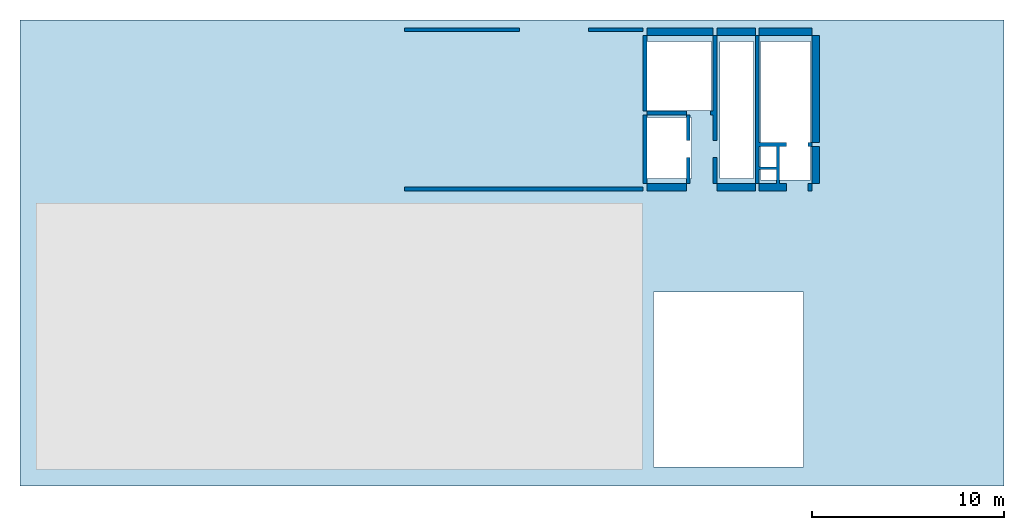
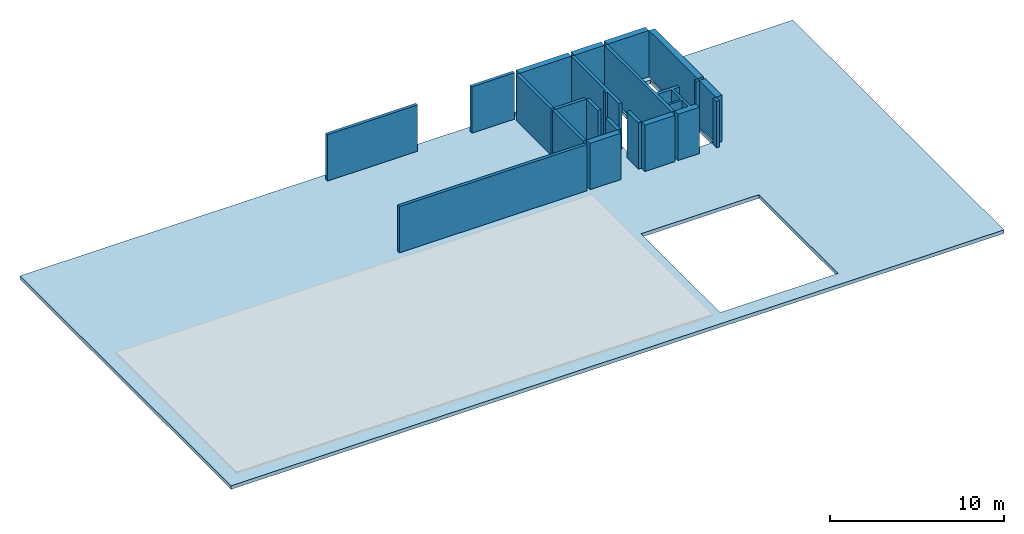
# One storey, part 1 of 2: 20 walls, 1 slab.
"""IFC4 building model written with IfcOpenShell, lengths in millimetres."""

from ifc_helpers import new_model, si_unit, frame, origin, place, context, project, spatial, triangles, element, save


model = new_model("IFC4")

# Units and contexts
model_context = context("Model", 3, precision=0.001, world=origin())
ifc_project = project(units=[si_unit("LENGTHUNIT", "METRE", prefix="MILLI"), si_unit("AREAUNIT", "SQUARE_METRE"), si_unit("VOLUMEUNIT", "CUBIC_METRE")], contexts=[model_context])

# Site, building, storey
site_placement = place(None, origin())
site = spatial("IfcSite", under=ifc_project, at=site_placement, Name="Site", CompositionType="ELEMENT")
building_placement = place(site_placement, origin())
building = spatial("IfcBuilding", under=site, at=building_placement, Name="INNOCEAN", CompositionType="ELEMENT")
storey_placement = place(building_placement, frame((0.0, 0.0, 84800.0)))
storey = spatial("IfcBuildingStorey", under=building, at=storey_placement, Name="RF", CompositionType="ELEMENT", Elevation=84800.0)

# Slab
slab_placement = place(storey_placement, origin())
element("IfcSlab", 1, at=slab_placement, inside=storey, Name="RF_Slab_RF_001", context=model_context, shape_type="Tessellation", body=[
    triangles([(-846.215139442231, 25825.974025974, 0.0), (50420.3187250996, 25825.974025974, -250.0), (-846.215139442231, 25825.974025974, -250.0), (50420.3187250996, 25825.974025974, 0.0), (-846.215139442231, 1552.38095238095, 0.0), (-846.215139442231, 1552.38095238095, -250.0), (50420.3187250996, 1552.38095238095, 0.0), (50420.3187250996, 1552.38095238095, -250.0), (39983.6653386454, 11642.8571428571, 0.0), (32156.1752988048, 11642.8571428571, 0.0), (32156.1752988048, 11642.8571428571, -250.0), (39983.6653386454, 11642.8571428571, -250.0), (39983.6653386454, 2540.25974025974, 0.0), (39983.6653386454, 2540.25974025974, -250.0), (32156.1752988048, 2540.25974025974, 0.0), (32156.1752988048, 2540.25974025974, -250.0), (40336.2549800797, 24696.9696969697, -250.0), (37727.0916334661, 24696.9696969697, 0.0), (37727.0916334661, 24696.9696969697, -250.0), (40336.2549800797, 24696.9696969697, 0.0), (37727.0916334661, 17499.5670995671, 0.0), (37727.0916334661, 17499.5670995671, -250.0), (40336.2549800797, 17499.5670995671, 0.0), (40336.2549800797, 17499.5670995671, -250.0), (37374.5019920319, 24696.9696969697, 0.0), (35611.5537848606, 24696.9696969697, 0.0), (35611.5537848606, 24696.9696969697, -250.0), (37374.5019920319, 24696.9696969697, -250.0), (35611.5537848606, 17570.1298701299, 0.0), (35611.5537848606, 17570.1298701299, -250.0), (37374.5019920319, 17570.1298701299, 0.0), (37374.5019920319, 17570.1298701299, -250.0), (34130.6772908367, 20745.4545454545, -250.0), (31733.0677290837, 20745.4545454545, 0.0), (31733.0677290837, 20745.4545454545, -250.0), (34130.6772908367, 20745.4545454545, 0.0), (31733.0677290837, 17570.1298701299, 0.0), (31733.0677290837, 17570.1298701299, -250.0), (34130.6772908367, 17570.1298701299, 0.0), (34130.6772908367, 17570.1298701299, -250.0), (35188.4462151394, 24696.9696969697, 0.0), (31733.0677290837, 24696.9696969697, 0.0), (31733.0677290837, 24696.9696969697, -250.0), (35188.4462151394, 24696.9696969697, -250.0), (31733.0677290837, 21098.2683982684, 0.0), (31733.0677290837, 21098.2683982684, -250.0), (35188.4462151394, 21098.2683982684, 0.0), (35188.4462151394, 21098.2683982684, -250.0)], [[1, 2, 3], [1, 4, 2], [5, 1, 6], [6, 1, 3], [4, 7, 2], [2, 7, 8], [7, 6, 8], [7, 5, 6], [9, 10, 11], [9, 11, 12], [13, 9, 12], [13, 12, 14], [15, 13, 14], [15, 14, 16], [10, 15, 16], [10, 16, 11], [17, 18, 19], [20, 18, 17], [18, 21, 22], [18, 22, 19], [23, 20, 17], [23, 17, 24], [22, 23, 24], [21, 23, 22], [25, 26, 27], [25, 27, 28], [26, 29, 30], [26, 30, 27], [31, 25, 28], [31, 28, 32], [29, 31, 32], [29, 32, 30], [33, 34, 35], [36, 34, 33], [34, 37, 38], [34, 38, 35], [39, 36, 33], [39, 33, 40], [38, 39, 40], [37, 39, 38], [41, 42, 43], [41, 43, 44], [42, 45, 46], [42, 46, 43], [47, 41, 44], [47, 44, 48], [45, 47, 48], [45, 48, 46], [13, 15, 7], [7, 9, 13], [7, 4, 9], [4, 23, 9], [23, 21, 9], [21, 31, 9], [9, 29, 10], [31, 29, 9], [29, 39, 10], [4, 20, 23], [39, 37, 10], [29, 36, 39], [47, 36, 29], [36, 45, 34], [26, 41, 47], [10, 5, 15], [37, 5, 10], [34, 1, 37], [42, 1, 45], [45, 1, 34], [37, 1, 5], [4, 1, 20], [20, 1, 18], [18, 1, 25], [25, 1, 26], [26, 1, 41], [41, 1, 42], [5, 7, 15], [29, 26, 47], [25, 31, 18], [18, 31, 21], [47, 45, 36], [16, 14, 8], [12, 8, 14], [2, 8, 12], [24, 2, 12], [22, 24, 12], [32, 22, 12], [30, 12, 11], [30, 32, 12], [40, 30, 11], [17, 2, 24], [38, 40, 11], [33, 30, 40], [33, 48, 30], [46, 33, 35], [44, 27, 48], [6, 11, 16], [6, 38, 11], [3, 35, 38], [3, 43, 46], [3, 46, 35], [3, 38, 6], [3, 2, 17], [3, 17, 19], [3, 19, 28], [3, 28, 27], [3, 27, 44], [3, 44, 43], [8, 6, 16], [27, 30, 48], [32, 28, 19], [32, 19, 22], [46, 48, 33]], closed=True),
])

# Walls
wall_1_placement = place(storey_placement, origin())
element("IfcWall", 2, at=wall_1_placement, inside=storey, Name="RF_Walls_RF_001", context=model_context, shape_type="Tessellation", body=[
    triangles([(19183.7, 17125.6, 0.0), (19183.7, 16922.4, 0.0), (19183.7, 16922.4, 3250.0), (19183.7, 17125.6, 3250.0), (31623.1, 17125.6, 0.0), (31623.1, 17125.6, 3250.0), (31623.1, 16922.4, 0.0), (31623.1, 16922.4, 3250.0)], [[1, 2, 3], [1, 3, 4], [5, 1, 4], [5, 4, 6], [7, 5, 6], [7, 6, 8], [2, 7, 8], [2, 8, 3], [1, 5, 7], [1, 7, 2], [6, 4, 8], [8, 4, 3]], closed=True),
])
wall_2_placement = place(storey_placement, origin())
element("IfcWall", 3, at=wall_2_placement, inside=storey, Name="RF_Walls_RF_002", context=model_context, shape_type="Tessellation", body=[
    triangles([(31826.2, 17316.1, 0.0), (31826.2, 16922.4, 0.0), (31826.2, 16922.4, 3250.0), (31826.2, 17316.1, 3250.0), (33869.8, 17316.1, 0.0), (33869.8, 17316.1, 3250.0), (33869.8, 16922.4, 0.0), (33869.8, 16922.4, 3250.0)], [[1, 2, 3], [1, 3, 4], [5, 1, 4], [5, 4, 6], [7, 5, 6], [7, 6, 8], [2, 7, 8], [2, 8, 3], [1, 5, 7], [1, 7, 2], [6, 4, 8], [8, 4, 3]], closed=True),
])
wall_3_placement = place(storey_placement, origin())
element("IfcWall", 4, at=wall_3_placement, inside=storey, Name="RF_Walls_RF_003", context=model_context, shape_type="Tessellation", body=[
    triangles([(33869.8, 18649.7, 0.0), (33869.8, 17316.1, 0.0), (33869.8, 17316.1, 3250.0), (33869.8, 18649.7, 3250.0), (34072.9, 18649.7, 0.0), (34072.9, 18649.7, 3250.0), (34072.9, 17316.1, 0.0), (34072.9, 17316.1, 3250.0)], [[1, 2, 3], [1, 3, 4], [5, 1, 4], [5, 4, 6], [7, 5, 6], [7, 6, 8], [2, 7, 8], [2, 8, 3], [1, 5, 7], [1, 7, 2], [6, 4, 8], [8, 4, 3]], closed=True),
])
wall_4_placement = place(storey_placement, origin())
element("IfcWall", 5, at=wall_4_placement, inside=storey, Name="RF_Walls_RF_004", context=model_context, shape_type="Tessellation", body=[
    triangles([(35266.0, 18649.7, 0.0), (35266.0, 17316.1, 0.0), (35266.0, 17316.1, 3250.0), (35266.0, 18649.7, 3250.0), (35469.1, 18649.7, 0.0), (35469.1, 18649.7, 3250.0), (35469.1, 17316.1, 0.0), (35469.1, 17316.1, 3250.0)], [[1, 2, 3], [1, 3, 4], [5, 1, 4], [5, 4, 6], [7, 5, 6], [7, 6, 8], [2, 7, 8], [2, 8, 3], [1, 5, 7], [1, 7, 2], [6, 4, 8], [8, 4, 3]], closed=True),
])
wall_5_placement = place(storey_placement, origin())
element("IfcWall", 6, at=wall_5_placement, inside=storey, Name="RF_Walls_RF_005", context=model_context, shape_type="Tessellation", body=[
    triangles([(31623.1, 20872.5, 0.0), (31623.1, 17316.1, 0.0), (31623.1, 17316.1, 3250.0), (31623.1, 20872.5, 3250.0), (31826.2, 20872.5, 0.0), (31826.2, 20872.5, 3250.0), (31826.2, 17316.1, 0.0), (31826.2, 17316.1, 3250.0)], [[1, 2, 3], [1, 3, 4], [5, 1, 4], [5, 4, 6], [7, 5, 6], [7, 6, 8], [2, 7, 8], [2, 8, 3], [1, 5, 7], [1, 7, 2], [6, 4, 8], [8, 4, 3]], closed=True),
])
wall_6_placement = place(storey_placement, origin())
element("IfcWall", 7, at=wall_6_placement, inside=storey, Name="RF_Walls_RF_006", context=model_context, shape_type="Tessellation", body=[
    triangles([(33869.8, 20872.5, 0.0), (33869.8, 19551.5, 0.0), (33869.8, 19551.5, 3250.0), (33869.8, 20872.5, 3250.0), (34072.9, 20872.5, 0.0), (34072.9, 20872.5, 3250.0), (34072.9, 19551.5, 0.0), (34072.9, 19551.5, 3250.0)], [[1, 2, 3], [1, 3, 4], [5, 1, 4], [5, 4, 6], [7, 5, 6], [7, 6, 8], [2, 7, 8], [2, 8, 3], [1, 5, 7], [1, 7, 2], [6, 4, 8], [8, 4, 3]], closed=True),
])
wall_7_placement = place(storey_placement, origin())
element("IfcWall", 8, at=wall_7_placement, inside=storey, Name="RF_Walls_RF_007", context=model_context, shape_type="Tessellation", body=[
    triangles([(35266.0, 20872.5, 0.0), (35266.0, 19551.5, 0.0), (35266.0, 19551.5, 3250.0), (35266.0, 20872.5, 3250.0), (35126.4, 20872.5, 3250.0), (35126.4, 20872.5, 0.0), (35126.4, 21075.7, 0.0), (35126.4, 21075.7, 3250.0), (35266.0, 21075.7, 3250.0), (35266.0, 21075.7, 0.0), (35266.0, 25025.8, 0.0), (35266.0, 25025.8, 3250.0), (35469.1, 25025.8, 0.0), (35469.1, 25025.8, 3250.0), (35469.1, 21075.7, 0.0), (35469.1, 21075.7, 3250.0), (35469.1, 20872.5, 0.0), (35469.1, 20872.5, 3250.0), (35469.1, 19551.5, 0.0), (35469.1, 19551.5, 3250.0)], [[1, 2, 3], [1, 3, 4], [1, 4, 5], [6, 1, 5], [7, 6, 5], [7, 5, 8], [7, 8, 9], [10, 7, 9], [11, 10, 9], [11, 9, 12], [13, 11, 12], [13, 12, 14], [15, 13, 14], [15, 14, 16], [17, 15, 16], [17, 16, 18], [19, 17, 18], [19, 18, 20], [2, 19, 20], [2, 20, 3], [1, 17, 19], [1, 19, 2], [15, 17, 1], [10, 15, 1], [7, 1, 6], [7, 10, 1], [11, 13, 15], [11, 15, 10], [18, 4, 20], [20, 4, 3], [18, 16, 4], [16, 9, 4], [4, 8, 5], [9, 8, 4], [14, 12, 16], [16, 12, 9]], closed=True),
])
wall_8_placement = place(storey_placement, origin())
element("IfcWall", 9, at=wall_8_placement, inside=storey, Name="RF_Walls_RF_008", context=model_context, shape_type="Tessellation", body=[
    triangles([(31826.2, 21075.7, 0.0), (31826.2, 20872.5, 0.0), (31826.2, 20872.5, 3250.0), (31826.2, 21075.7, 3250.0), (33869.8, 21075.7, 0.0), (33869.8, 21075.7, 3250.0), (33869.8, 20872.5, 0.0), (33869.8, 20872.5, 3250.0)], [[1, 2, 3], [1, 3, 4], [5, 1, 4], [5, 4, 6], [7, 5, 6], [7, 6, 8], [2, 7, 8], [2, 8, 3], [1, 5, 7], [1, 7, 2], [6, 4, 8], [8, 4, 3]], closed=True),
])
wall_9_placement = place(storey_placement, origin())
element("IfcWall", 10, at=wall_9_placement, inside=storey, Name="RF_Walls_RF_009", context=model_context, shape_type="Tessellation", body=[
    triangles([(31623.1, 25025.8, 0.0), (31623.1, 21075.7, 0.0), (31623.1, 21075.7, 3250.0), (31623.1, 25025.8, 3250.0), (31826.2, 25025.8, 0.0), (31826.2, 25025.8, 3250.0), (31826.2, 21075.7, 0.0), (31826.2, 21075.7, 3250.0)], [[1, 2, 3], [1, 3, 4], [5, 1, 4], [5, 4, 6], [7, 5, 6], [7, 6, 8], [2, 7, 8], [2, 8, 3], [5, 7, 2], [1, 5, 2], [8, 6, 3], [6, 4, 3]], closed=True),
])
wall_10_placement = place(storey_placement, origin())
element("IfcWall", 11, at=wall_10_placement, inside=storey, Name="RF_Walls_RF_010", context=model_context, shape_type="Tessellation", body=[
    triangles([(31826.2, 25025.8, 0.0), (31826.2, 25025.8, 3250.0), (31826.2, 25419.5, 3250.0), (31826.2, 25419.5, 0.0), (35266.0, 25419.5, 0.0), (35266.0, 25419.5, 3250.0), (35266.0, 25025.8, 3250.0), (35266.0, 25025.8, 0.0)], [[1, 2, 3], [4, 1, 3], [5, 4, 3], [5, 3, 6], [5, 6, 7], [8, 5, 7], [1, 8, 7], [1, 7, 2], [4, 5, 8], [4, 8, 1], [6, 3, 7], [7, 3, 2]], closed=True),
])
wall_11_placement = place(storey_placement, origin())
element("IfcWall", 12, at=wall_11_placement, inside=storey, Name="RF_Walls_RF_011", context=model_context, shape_type="Tessellation", body=[
    triangles([(35469.1, 25025.8, 0.0), (35469.1, 25025.8, 3250.0), (35469.1, 25419.5, 3250.0), (35469.1, 25419.5, 0.0), (37474.6, 25419.5, 0.0), (37474.6, 25419.5, 3250.0), (37474.6, 25025.8, 3250.0), (37474.6, 25025.8, 0.0)], [[1, 2, 3], [4, 1, 3], [5, 4, 3], [5, 3, 6], [5, 6, 7], [8, 5, 7], [1, 8, 7], [1, 7, 2], [4, 5, 8], [4, 8, 1], [6, 3, 7], [7, 3, 2]], closed=True),
])
wall_12_placement = place(storey_placement, origin())
element("IfcWall", 13, at=wall_12_placement, inside=storey, Name="RF_Walls_RF_012", context=model_context, shape_type="Tessellation", body=[
    triangles([(19183.7, 25419.5, 0.0), (19183.7, 25216.3, 0.0), (19183.7, 25216.3, 3250.0), (19183.7, 25419.5, 3250.0), (19185.0, 25419.5, 3250.0), (19185.0, 25419.5, 0.0), (19185.0, 25420.0, 0.0), (19185.0, 25420.0, 3250.0), (25175.0, 25420.0, 0.0), (25175.0, 25420.0, 3250.0), (25175.0, 25215.0, 0.0), (25175.0, 25215.0, 3250.0), (19185.0, 25215.0, 0.0), (19185.0, 25215.0, 3250.0), (19185.0, 25216.3, 3250.0), (19185.0, 25216.3, 0.0)], [[1, 2, 3], [1, 3, 4], [1, 4, 5], [6, 1, 5], [7, 6, 5], [7, 5, 8], [9, 7, 8], [9, 8, 10], [11, 9, 10], [11, 10, 12], [13, 11, 12], [13, 12, 14], [13, 14, 15], [16, 13, 15], [16, 15, 3], [2, 16, 3], [16, 9, 11], [16, 11, 13], [6, 9, 16], [7, 9, 6], [1, 16, 2], [1, 6, 16], [10, 15, 12], [12, 15, 14], [10, 5, 15], [10, 8, 5], [15, 4, 3], [5, 4, 15]], closed=True),
])
wall_13_placement = place(storey_placement, origin())
element("IfcWall", 14, at=wall_13_placement, inside=storey, Name="RF_Walls_RF_013", context=model_context, shape_type="Tessellation", body=[
    triangles([(28779.8, 25419.5, 0.0), (28779.8, 25216.3, 0.0), (28779.8, 25216.3, 3250.0), (28779.8, 25419.5, 3250.0), (31623.1, 25419.5, 0.0), (31623.1, 25419.5, 3250.0), (31623.1, 25216.3, 0.0), (31623.1, 25216.3, 3250.0)], [[1, 2, 3], [1, 3, 4], [5, 1, 4], [5, 4, 6], [7, 5, 6], [7, 6, 8], [2, 7, 8], [2, 8, 3], [2, 5, 7], [1, 5, 2], [6, 3, 8], [6, 4, 3]], closed=True),
])
wall_14_placement = place(storey_placement, origin())
element("IfcWall", 15, at=wall_14_placement, inside=storey, Name="RF_Walls_RF_014", context=model_context, shape_type="Tessellation", body=[
    triangles([(35469.1, 17316.1, 0.0), (35469.1, 16922.4, 0.0), (35469.1, 16922.4, 3250.0), (35469.1, 17316.1, 3250.0), (37474.6, 17316.1, 0.0), (37474.6, 17316.1, 3250.0), (37474.6, 16922.4, 0.0), (37474.6, 16922.4, 3250.0)], [[1, 2, 3], [1, 3, 4], [5, 1, 4], [5, 4, 6], [7, 5, 6], [7, 6, 8], [2, 7, 8], [2, 8, 3], [1, 5, 7], [1, 7, 2], [6, 4, 8], [8, 4, 3]], closed=True),
])
wall_15_placement = place(storey_placement, origin())
element("IfcWall", 16, at=wall_15_placement, inside=storey, Name="RF_Walls_RF_015", context=model_context, shape_type="Tessellation", body=[
    triangles([(37474.6, 17316.1, 0.0), (37665.0, 17316.1, 0.0), (37665.0, 17316.1, 3250.0), (37474.6, 17316.1, 3250.0), (37665.0, 16922.4, 0.0), (37665.0, 16922.4, 3250.0), (39099.4, 16922.4, 0.0), (39099.4, 16922.4, 3250.0), (39099.4, 17316.1, 0.0), (39099.4, 17316.1, 3250.0), (38720.0, 17316.1, 0.0), (38720.0, 17316.1, 3250.0), (38720.0, 19245.0, 0.0), (38720.0, 19245.0, 3250.0), (39100.0, 19245.0, 0.0), (39100.0, 19245.0, 3250.0), (39100.0, 19450.0, 0.0), (39100.0, 19450.0, 3250.0), (37665.0, 19450.0, 0.0), (37665.0, 19450.0, 3250.0), (37665.0, 25025.8, 0.0), (37665.0, 25025.8, 3250.0), (37474.6, 25025.8, 0.0), (37474.6, 25025.8, 3250.0), (37474.6, 19449.9, 0.0), (37474.6, 19449.9, 3250.0), (37665.0, 18025.0, 0.0), (37665.0, 18025.0, 3250.0), (38565.0, 18025.0, 0.0), (38565.0, 18025.0, 3250.0), (38565.0, 17316.1, 0.0), (38565.0, 17316.1, 3250.0), (38565.0, 19245.0, 0.0), (38565.0, 18167.1, 0.0), (38565.0, 18167.1, 3250.0), (38565.0, 19245.0, 3250.0), (37665.0, 18167.1, 0.0), (37665.0, 18167.1, 3250.0), (37665.0, 19245.0, 0.0), (37665.0, 19245.0, 3250.0)], [[1, 2, 3], [1, 3, 4], [2, 5, 6], [2, 6, 3], [5, 7, 8], [5, 8, 6], [7, 9, 10], [7, 10, 8], [9, 11, 12], [9, 12, 10], [13, 14, 12], [11, 13, 12], [13, 15, 16], [13, 16, 14], [15, 17, 18], [15, 18, 16], [17, 19, 20], [17, 20, 18], [19, 21, 22], [19, 22, 20], [21, 23, 24], [21, 24, 22], [23, 25, 26], [23, 26, 24], [1, 4, 26], [25, 1, 26], [2, 27, 28], [2, 28, 3], [27, 29, 30], [27, 30, 28], [29, 31, 32], [29, 32, 30], [31, 2, 3], [31, 3, 32], [33, 34, 35], [33, 35, 36], [34, 37, 38], [34, 38, 35], [37, 39, 40], [37, 40, 38], [39, 33, 36], [39, 36, 40], [11, 9, 7], [31, 11, 7], [5, 31, 7], [29, 11, 31], [2, 31, 5], [27, 2, 1], [37, 29, 27], [37, 34, 29], [37, 27, 1], [13, 17, 15], [33, 13, 34], [33, 17, 13], [19, 33, 39], [19, 17, 33], [25, 39, 37], [25, 19, 39], [25, 37, 1], [23, 21, 19], [23, 19, 25], [13, 11, 29], [13, 29, 34], [10, 12, 8], [12, 32, 8], [32, 6, 8], [12, 30, 32], [32, 3, 6], [3, 28, 4], [30, 38, 28], [35, 38, 30], [28, 38, 4], [18, 14, 16], [14, 36, 35], [18, 36, 14], [36, 20, 40], [18, 20, 36], [40, 26, 38], [20, 26, 40], [38, 26, 4], [22, 24, 20], [20, 24, 26], [12, 14, 30], [30, 14, 35]], closed=True),
])
wall_16_placement = place(storey_placement, origin())
element("IfcWall", 17, at=wall_16_placement, inside=storey, Name="RF_Walls_RF_016", context=model_context, shape_type="Tessellation", body=[
    triangles([(40216.4, 17316.1, 0.0), (40216.4, 16922.4, 0.0), (40216.4, 16922.4, 3250.0), (40216.4, 17316.1, 3250.0), (40419.5, 17316.1, 0.0), (40419.5, 17316.1, 3250.0), (40419.5, 16922.4, 0.0), (40419.5, 16922.4, 3250.0)], [[1, 2, 3], [1, 3, 4], [5, 1, 4], [5, 4, 6], [7, 5, 6], [7, 6, 8], [2, 7, 8], [2, 8, 3], [1, 5, 7], [1, 7, 2], [6, 4, 8], [8, 4, 3]], closed=True),
])
wall_17_placement = place(storey_placement, origin())
element("IfcWall", 18, at=wall_17_placement, inside=storey, Name="RF_Walls_RF_017", context=model_context, shape_type="Tessellation", body=[
    triangles([(40419.5, 19246.7, 0.0), (40419.5, 17316.1, 0.0), (40419.5, 17316.1, 3250.0), (40419.5, 19246.7, 3250.0), (40813.0, 19246.7, 0.0), (40813.0, 19246.7, 3250.0), (40813.0, 17316.1, 0.0), (40813.0, 17316.1, 3250.0)], [[1, 2, 3], [1, 3, 4], [5, 1, 4], [5, 4, 6], [7, 5, 6], [7, 6, 8], [2, 7, 8], [2, 8, 3], [1, 5, 7], [1, 7, 2], [6, 4, 8], [8, 4, 3]], closed=True),
])
wall_18_placement = place(storey_placement, origin())
element("IfcWall", 19, at=wall_18_placement, inside=storey, Name="RF_Walls_RF_018", context=model_context, shape_type="Tessellation", body=[
    triangles([(40216.4, 19449.9, 0.0), (40216.4, 19246.7, 0.0), (40216.4, 19246.7, 3250.0), (40216.4, 19449.9, 3250.0), (40419.5, 19449.9, 0.0), (40419.5, 19449.9, 3250.0), (40419.5, 19246.7, 0.0), (40419.5, 19246.7, 3250.0)], [[1, 2, 3], [1, 3, 4], [5, 1, 4], [5, 4, 6], [7, 5, 6], [7, 6, 8], [2, 7, 8], [2, 8, 3], [5, 7, 2], [1, 5, 2], [8, 6, 3], [6, 4, 3]], closed=True),
])
wall_19_placement = place(storey_placement, origin())
element("IfcWall", 20, at=wall_19_placement, inside=storey, Name="RF_Walls_RF_019", context=model_context, shape_type="Tessellation", body=[
    triangles([(40419.5, 25025.8, 0.0), (40419.5, 19449.9, 0.0), (40419.5, 19449.9, 3250.0), (40419.5, 25025.8, 3250.0), (40813.0, 25025.8, 0.0), (40813.0, 25025.8, 3250.0), (40813.0, 19449.9, 0.0), (40813.0, 19449.9, 3250.0)], [[1, 2, 3], [1, 3, 4], [5, 1, 4], [5, 4, 6], [7, 5, 6], [7, 6, 8], [2, 7, 8], [2, 8, 3], [1, 5, 7], [1, 7, 2], [6, 4, 8], [8, 4, 3]], closed=True),
])
wall_20_placement = place(storey_placement, origin())
element("IfcWall", 21, at=wall_20_placement, inside=storey, Name="RF_Walls_RF_020", context=model_context, shape_type="Tessellation", body=[
    triangles([(37665.0, 25025.8, 0.0), (37665.0, 25025.8, 3250.0), (37665.0, 25419.5, 3250.0), (37665.0, 25419.5, 0.0), (40419.5, 25419.5, 0.0), (40419.5, 25419.5, 3250.0), (40419.5, 25025.8, 3250.0), (40419.5, 25025.8, 0.0)], [[1, 2, 3], [4, 1, 3], [5, 4, 3], [5, 3, 6], [5, 6, 7], [8, 5, 7], [1, 8, 7], [1, 7, 2], [4, 5, 8], [4, 8, 1], [6, 3, 7], [7, 3, 2]], closed=True),
])

save(model, "model.ifc")
